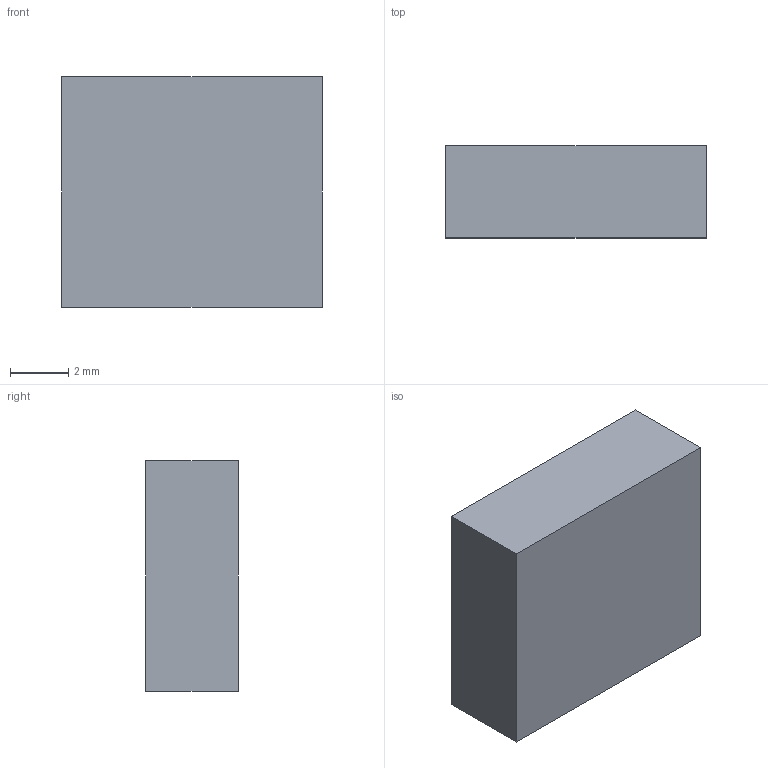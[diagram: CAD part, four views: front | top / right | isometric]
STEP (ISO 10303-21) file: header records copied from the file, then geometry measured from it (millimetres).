
FILE_DESCRIPTION(('Open CASCADE Model'),'2;1');
FILE_NAME('Open CASCADE Shape Model','2026-08-18T10:55:10',('Author'),( 'Open CASCADE'),'Open CASCADE STEP processor 7.9','Open CASCADE 7.9' ,'Unknown');
FILE_SCHEMA(('AUTOMOTIVE_DESIGN { 1 0 10303 214 1 1 1 1 }'));
Length unit declared in the file: millimetre
Products named in the file (1): usb_c_power_port
Bounding box: 8.94 x 3.16 x 7.9 mm (x, y, z)
Volume: 223.2 mm3; surface area: 247.7 mm2
Topology: 1 solids, 1 shells, 6 faces, 12 edges, 8 vertices
Faces by surface type: plane 6
Entity records: 322 total; most frequent: CARTESIAN_POINT 51, DIRECTION 50, LINE 36, VECTOR 36, ORIENTED_EDGE 24, PCURVE 24, DEFINITIONAL_REPRESENTATION 24, EDGE_CURVE 12
